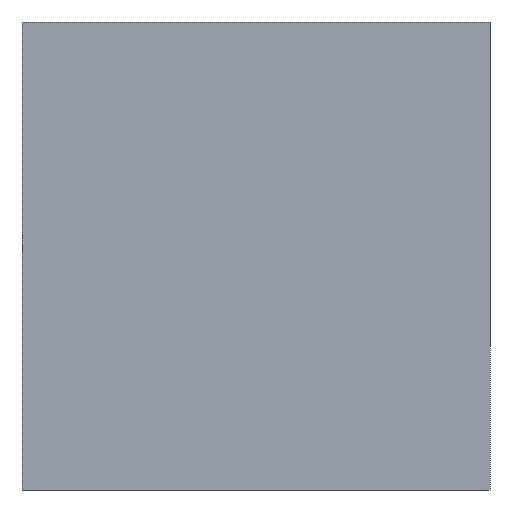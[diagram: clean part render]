
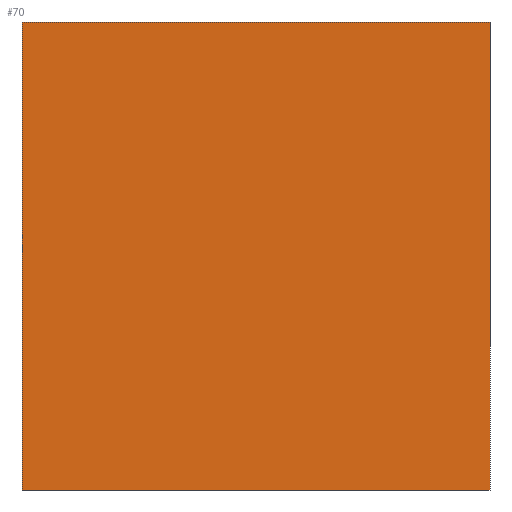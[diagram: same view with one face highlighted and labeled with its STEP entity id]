
A CAD part, left-side view. The second image highlights one B-rep face of the part: STEP entity #70.
In plain terms, the highlighted planar face has unit normal (-1, 0, 0).
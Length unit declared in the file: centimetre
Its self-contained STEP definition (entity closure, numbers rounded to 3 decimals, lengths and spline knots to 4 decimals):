
#31 = VECTOR ( 'NONE', #224, 100. ) ;
#70 = ADVANCED_FACE ( 'NONE', ( #146 ), #610, .F. ) ;
#77 = VERTEX_POINT ( 'NONE', #422 ) ;
#97 = VECTOR ( 'NONE', #538, 100. ) ;
#116 = CARTESIAN_POINT ( 'NONE',  ( 0., 1000., 0. ) ) ;
#119 = EDGE_CURVE ( 'NONE', #476, #331, #374, .T. ) ;
#129 = DIRECTION ( 'NONE',  ( 0., 0., -1. ) ) ;
#146 = FACE_OUTER_BOUND ( 'NONE', #554, .T. ) ;
#176 = LINE ( 'NONE', #332, #31 ) ;
#181 = LINE ( 'NONE', #384, #611 ) ;
#183 = EDGE_CURVE ( 'NONE', #294, #331, #181, .T. ) ;
#194 = LINE ( 'NONE', #631, #97 ) ;
#215 = ORIENTED_EDGE ( 'NONE', *, *, #119, .T. ) ;
#224 = DIRECTION ( 'NONE',  ( 0., -1., 0. ) ) ;
#254 = AXIS2_PLACEMENT_3D ( 'NONE', #363, #527, #428 ) ;
#275 = CARTESIAN_POINT ( 'NONE',  ( 0., 0., 0. ) ) ;
#294 = VERTEX_POINT ( 'NONE', #339 ) ;
#317 = EDGE_CURVE ( 'NONE', #77, #476, #194, .T. ) ;
#326 = EDGE_CURVE ( 'NONE', #77, #294, #176, .T. ) ;
#331 = VERTEX_POINT ( 'NONE', #275 ) ;
#332 = CARTESIAN_POINT ( 'NONE',  ( 0., 1000., 1000. ) ) ;
#334 = ORIENTED_EDGE ( 'NONE', *, *, #317, .T. ) ;
#339 = CARTESIAN_POINT ( 'NONE',  ( 0., 0., 1000. ) ) ;
#363 = CARTESIAN_POINT ( 'NONE',  ( 0., 1000., 1000. ) ) ;
#374 = LINE ( 'NONE', #116, #467 ) ;
#378 = ORIENTED_EDGE ( 'NONE', *, *, #183, .F. ) ;
#384 = CARTESIAN_POINT ( 'NONE',  ( 0., 0., 1000. ) ) ;
#413 = CARTESIAN_POINT ( 'NONE',  ( 0., 1000., 0. ) ) ;
#422 = CARTESIAN_POINT ( 'NONE',  ( 0., 1000., 1000. ) ) ;
#428 = DIRECTION ( 'NONE',  ( 0., 0., -1. ) ) ;
#433 = DIRECTION ( 'NONE',  ( 0., -1., 0. ) ) ;
#445 = ORIENTED_EDGE ( 'NONE', *, *, #326, .F. ) ;
#467 = VECTOR ( 'NONE', #433, 100. ) ;
#476 = VERTEX_POINT ( 'NONE', #413 ) ;
#527 = DIRECTION ( 'NONE',  ( 1., 0., 0. ) ) ;
#538 = DIRECTION ( 'NONE',  ( 0., 0., -1. ) ) ;
#554 = EDGE_LOOP ( 'NONE', ( #215, #378, #445, #334 ) ) ;
#610 = PLANE ( 'NONE',  #254 ) ;
#611 = VECTOR ( 'NONE', #129, 100. ) ;
#631 = CARTESIAN_POINT ( 'NONE',  ( 0., 1000., 1000. ) ) ;
